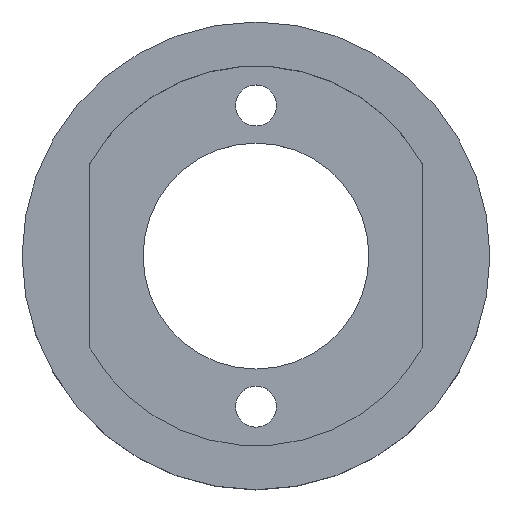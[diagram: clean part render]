
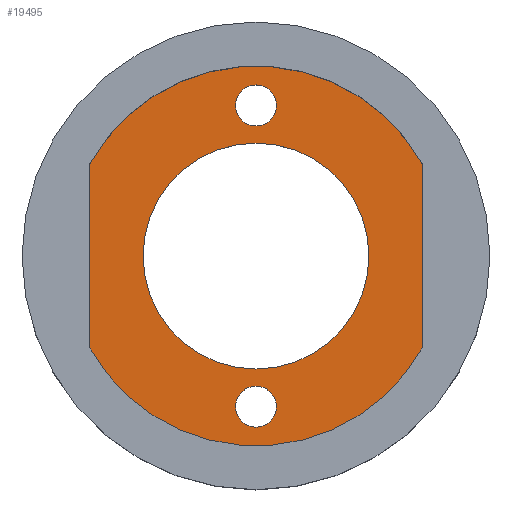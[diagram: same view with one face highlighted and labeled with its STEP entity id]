
A CAD part, top view. The second image highlights one B-rep face of the part: STEP entity #19495.
In plain terms, the highlighted planar face has unit normal (0, 0, 1).
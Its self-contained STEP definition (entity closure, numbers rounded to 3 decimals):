
#18949 = CYLINDRICAL_SURFACE('',#18950,1.36);
#18950 = AXIS2_PLACEMENT_3D('',#18951,#18952,#18953);
#18951 = CARTESIAN_POINT('',(0.,-10.,-1.));
#18952 = DIRECTION('',(0.,0.,1.));
#18953 = DIRECTION('',(1.,0.,-0.));
#18980 = CYLINDRICAL_SURFACE('',#18981,7.5);
#18981 = AXIS2_PLACEMENT_3D('',#18982,#18983,#18984);
#18982 = CARTESIAN_POINT('',(0.,0.,-1.));
#18983 = DIRECTION('',(0.,0.,1.));
#18984 = DIRECTION('',(1.,0.,-0.));
#19011 = CYLINDRICAL_SURFACE('',#19012,1.36);
#19012 = AXIS2_PLACEMENT_3D('',#19013,#19014,#19015);
#19013 = CARTESIAN_POINT('',(0.,10.,-1.));
#19014 = DIRECTION('',(0.,0.,1.));
#19015 = DIRECTION('',(1.,0.,-0.));
#19048 = CYLINDRICAL_SURFACE('',#19049,12.61);
#19049 = AXIS2_PLACEMENT_3D('',#19050,#19051,#19052);
#19050 = CARTESIAN_POINT('',(0.,0.,0.6));
#19051 = DIRECTION('',(0.,0.,1.));
#19052 = DIRECTION('',(1.,0.,-0.));
#19076 = PLANE('',#19077);
#19077 = AXIS2_PLACEMENT_3D('',#19078,#19079,#19080);
#19078 = CARTESIAN_POINT('',(-11.03,-16.,0.6));
#19079 = DIRECTION('',(1.,0.,-0.));
#19080 = DIRECTION('',(0.,0.,1.));
#19105 = CYLINDRICAL_SURFACE('',#19106,12.61);
#19106 = AXIS2_PLACEMENT_3D('',#19107,#19108,#19109);
#19107 = CARTESIAN_POINT('',(0.,0.,0.6));
#19108 = DIRECTION('',(0.,0.,1.));
#19109 = DIRECTION('',(1.,0.,-0.));
#19131 = PLANE('',#19132);
#19132 = AXIS2_PLACEMENT_3D('',#19133,#19134,#19135);
#19133 = CARTESIAN_POINT('',(11.03,-16.,0.6));
#19134 = DIRECTION('',(1.,0.,-0.));
#19135 = DIRECTION('',(0.,0.,1.));
#19146 = EDGE_CURVE('',#19147,#19147,#19149,.T.);
#19147 = VERTEX_POINT('',#19148);
#19148 = CARTESIAN_POINT('',(1.36,-10.,0.6));
#19149 = SURFACE_CURVE('',#19150,(#19155,#19162),.PCURVE_S1.);
#19150 = CIRCLE('',#19151,1.36);
#19151 = AXIS2_PLACEMENT_3D('',#19152,#19153,#19154);
#19152 = CARTESIAN_POINT('',(0.,-10.,0.6));
#19153 = DIRECTION('',(0.,0.,1.));
#19154 = DIRECTION('',(1.,0.,-0.));
#19155 = PCURVE('',#18949,#19156);
#19156 = DEFINITIONAL_REPRESENTATION('',(#19157),#19161);
#19157 = LINE('',#19158,#19159);
#19158 = CARTESIAN_POINT('',(0.,1.6));
#19159 = VECTOR('',#19160,1.);
#19160 = DIRECTION('',(1.,0.));
#19161 = ( GEOMETRIC_REPRESENTATION_CONTEXT(2) 
PARAMETRIC_REPRESENTATION_CONTEXT() REPRESENTATION_CONTEXT('2D SPACE',''
  ) );
#19162 = PCURVE('',#19163,#19168);
#19163 = PLANE('',#19164);
#19164 = AXIS2_PLACEMENT_3D('',#19165,#19166,#19167);
#19165 = CARTESIAN_POINT('',(0.,0.,0.6));
#19166 = DIRECTION('',(0.,0.,1.));
#19167 = DIRECTION('',(1.,0.,-0.));
#19168 = DEFINITIONAL_REPRESENTATION('',(#19169),#19173);
#19169 = CIRCLE('',#19170,1.36);
#19170 = AXIS2_PLACEMENT_2D('',#19171,#19172);
#19171 = CARTESIAN_POINT('',(0.,-10.));
#19172 = DIRECTION('',(1.,0.));
#19173 = ( GEOMETRIC_REPRESENTATION_CONTEXT(2) 
PARAMETRIC_REPRESENTATION_CONTEXT() REPRESENTATION_CONTEXT('2D SPACE',''
  ) );
#19201 = EDGE_CURVE('',#19202,#19202,#19204,.T.);
#19202 = VERTEX_POINT('',#19203);
#19203 = CARTESIAN_POINT('',(7.5,0.,0.6));
#19204 = SURFACE_CURVE('',#19205,(#19210,#19217),.PCURVE_S1.);
#19205 = CIRCLE('',#19206,7.5);
#19206 = AXIS2_PLACEMENT_3D('',#19207,#19208,#19209);
#19207 = CARTESIAN_POINT('',(0.,0.,0.6));
#19208 = DIRECTION('',(0.,0.,1.));
#19209 = DIRECTION('',(1.,0.,-0.));
#19210 = PCURVE('',#18980,#19211);
#19211 = DEFINITIONAL_REPRESENTATION('',(#19212),#19216);
#19212 = LINE('',#19213,#19214);
#19213 = CARTESIAN_POINT('',(0.,1.6));
#19214 = VECTOR('',#19215,1.);
#19215 = DIRECTION('',(1.,0.));
#19216 = ( GEOMETRIC_REPRESENTATION_CONTEXT(2) 
PARAMETRIC_REPRESENTATION_CONTEXT() REPRESENTATION_CONTEXT('2D SPACE',''
  ) );
#19217 = PCURVE('',#19163,#19218);
#19218 = DEFINITIONAL_REPRESENTATION('',(#19219),#19223);
#19219 = CIRCLE('',#19220,7.5);
#19220 = AXIS2_PLACEMENT_2D('',#19221,#19222);
#19221 = CARTESIAN_POINT('',(0.,0.));
#19222 = DIRECTION('',(1.,0.));
#19223 = ( GEOMETRIC_REPRESENTATION_CONTEXT(2) 
PARAMETRIC_REPRESENTATION_CONTEXT() REPRESENTATION_CONTEXT('2D SPACE',''
  ) );
#19251 = EDGE_CURVE('',#19252,#19252,#19254,.T.);
#19252 = VERTEX_POINT('',#19253);
#19253 = CARTESIAN_POINT('',(1.36,10.,0.6));
#19254 = SURFACE_CURVE('',#19255,(#19260,#19267),.PCURVE_S1.);
#19255 = CIRCLE('',#19256,1.36);
#19256 = AXIS2_PLACEMENT_3D('',#19257,#19258,#19259);
#19257 = CARTESIAN_POINT('',(0.,10.,0.6));
#19258 = DIRECTION('',(0.,0.,1.));
#19259 = DIRECTION('',(1.,0.,-0.));
#19260 = PCURVE('',#19011,#19261);
#19261 = DEFINITIONAL_REPRESENTATION('',(#19262),#19266);
#19262 = LINE('',#19263,#19264);
#19263 = CARTESIAN_POINT('',(0.,1.6));
#19264 = VECTOR('',#19265,1.);
#19265 = DIRECTION('',(1.,0.));
#19266 = ( GEOMETRIC_REPRESENTATION_CONTEXT(2) 
PARAMETRIC_REPRESENTATION_CONTEXT() REPRESENTATION_CONTEXT('2D SPACE',''
  ) );
#19267 = PCURVE('',#19163,#19268);
#19268 = DEFINITIONAL_REPRESENTATION('',(#19269),#19273);
#19269 = CIRCLE('',#19270,1.36);
#19270 = AXIS2_PLACEMENT_2D('',#19271,#19272);
#19271 = CARTESIAN_POINT('',(0.,10.));
#19272 = DIRECTION('',(1.,0.));
#19273 = ( GEOMETRIC_REPRESENTATION_CONTEXT(2) 
PARAMETRIC_REPRESENTATION_CONTEXT() REPRESENTATION_CONTEXT('2D SPACE',''
  ) );
#19301 = EDGE_CURVE('',#19302,#19304,#19306,.T.);
#19302 = VERTEX_POINT('',#19303);
#19303 = CARTESIAN_POINT('',(-11.03,-6.112,0.6));
#19304 = VERTEX_POINT('',#19305);
#19305 = CARTESIAN_POINT('',(11.03,-6.112,0.6));
#19306 = SURFACE_CURVE('',#19307,(#19312,#19319),.PCURVE_S1.);
#19307 = CIRCLE('',#19308,12.61);
#19308 = AXIS2_PLACEMENT_3D('',#19309,#19310,#19311);
#19309 = CARTESIAN_POINT('',(0.,0.,0.6));
#19310 = DIRECTION('',(0.,0.,1.));
#19311 = DIRECTION('',(1.,0.,-0.));
#19312 = PCURVE('',#19048,#19313);
#19313 = DEFINITIONAL_REPRESENTATION('',(#19314),#19318);
#19314 = LINE('',#19315,#19316);
#19315 = CARTESIAN_POINT('',(0.,0.));
#19316 = VECTOR('',#19317,1.);
#19317 = DIRECTION('',(1.,0.));
#19318 = ( GEOMETRIC_REPRESENTATION_CONTEXT(2) 
PARAMETRIC_REPRESENTATION_CONTEXT() REPRESENTATION_CONTEXT('2D SPACE',''
  ) );
#19319 = PCURVE('',#19163,#19320);
#19320 = DEFINITIONAL_REPRESENTATION('',(#19321),#19325);
#19321 = CIRCLE('',#19322,12.61);
#19322 = AXIS2_PLACEMENT_2D('',#19323,#19324);
#19323 = CARTESIAN_POINT('',(0.,0.));
#19324 = DIRECTION('',(1.,0.));
#19325 = ( GEOMETRIC_REPRESENTATION_CONTEXT(2) 
PARAMETRIC_REPRESENTATION_CONTEXT() REPRESENTATION_CONTEXT('2D SPACE',''
  ) );
#19375 = EDGE_CURVE('',#19304,#19376,#19378,.T.);
#19376 = VERTEX_POINT('',#19377);
#19377 = CARTESIAN_POINT('',(11.03,6.112,0.6));
#19378 = SURFACE_CURVE('',#19379,(#19383,#19390),.PCURVE_S1.);
#19379 = LINE('',#19380,#19381);
#19380 = CARTESIAN_POINT('',(11.03,-16.,0.6));
#19381 = VECTOR('',#19382,1.);
#19382 = DIRECTION('',(-0.,1.,0.));
#19383 = PCURVE('',#19131,#19384);
#19384 = DEFINITIONAL_REPRESENTATION('',(#19385),#19389);
#19385 = LINE('',#19386,#19387);
#19386 = CARTESIAN_POINT('',(0.,0.));
#19387 = VECTOR('',#19388,1.);
#19388 = DIRECTION('',(0.,-1.));
#19389 = ( GEOMETRIC_REPRESENTATION_CONTEXT(2) 
PARAMETRIC_REPRESENTATION_CONTEXT() REPRESENTATION_CONTEXT('2D SPACE',''
  ) );
#19390 = PCURVE('',#19163,#19391);
#19391 = DEFINITIONAL_REPRESENTATION('',(#19392),#19396);
#19392 = LINE('',#19393,#19394);
#19393 = CARTESIAN_POINT('',(11.03,-16.));
#19394 = VECTOR('',#19395,1.);
#19395 = DIRECTION('',(0.,1.));
#19396 = ( GEOMETRIC_REPRESENTATION_CONTEXT(2) 
PARAMETRIC_REPRESENTATION_CONTEXT() REPRESENTATION_CONTEXT('2D SPACE',''
  ) );
#19424 = EDGE_CURVE('',#19376,#19425,#19427,.T.);
#19425 = VERTEX_POINT('',#19426);
#19426 = CARTESIAN_POINT('',(-11.03,6.112,0.6));
#19427 = SURFACE_CURVE('',#19428,(#19433,#19440),.PCURVE_S1.);
#19428 = CIRCLE('',#19429,12.61);
#19429 = AXIS2_PLACEMENT_3D('',#19430,#19431,#19432);
#19430 = CARTESIAN_POINT('',(0.,0.,0.6));
#19431 = DIRECTION('',(0.,0.,1.));
#19432 = DIRECTION('',(1.,0.,-0.));
#19433 = PCURVE('',#19105,#19434);
#19434 = DEFINITIONAL_REPRESENTATION('',(#19435),#19439);
#19435 = LINE('',#19436,#19437);
#19436 = CARTESIAN_POINT('',(0.,0.));
#19437 = VECTOR('',#19438,1.);
#19438 = DIRECTION('',(1.,0.));
#19439 = ( GEOMETRIC_REPRESENTATION_CONTEXT(2) 
PARAMETRIC_REPRESENTATION_CONTEXT() REPRESENTATION_CONTEXT('2D SPACE',''
  ) );
#19440 = PCURVE('',#19163,#19441);
#19441 = DEFINITIONAL_REPRESENTATION('',(#19442),#19446);
#19442 = CIRCLE('',#19443,12.61);
#19443 = AXIS2_PLACEMENT_2D('',#19444,#19445);
#19444 = CARTESIAN_POINT('',(0.,0.));
#19445 = DIRECTION('',(1.,0.));
#19446 = ( GEOMETRIC_REPRESENTATION_CONTEXT(2) 
PARAMETRIC_REPRESENTATION_CONTEXT() REPRESENTATION_CONTEXT('2D SPACE',''
  ) );
#19474 = EDGE_CURVE('',#19302,#19425,#19475,.T.);
#19475 = SURFACE_CURVE('',#19476,(#19480,#19487),.PCURVE_S1.);
#19476 = LINE('',#19477,#19478);
#19477 = CARTESIAN_POINT('',(-11.03,-16.,0.6));
#19478 = VECTOR('',#19479,1.);
#19479 = DIRECTION('',(-0.,1.,0.));
#19480 = PCURVE('',#19076,#19481);
#19481 = DEFINITIONAL_REPRESENTATION('',(#19482),#19486);
#19482 = LINE('',#19483,#19484);
#19483 = CARTESIAN_POINT('',(0.,0.));
#19484 = VECTOR('',#19485,1.);
#19485 = DIRECTION('',(0.,-1.));
#19486 = ( GEOMETRIC_REPRESENTATION_CONTEXT(2) 
PARAMETRIC_REPRESENTATION_CONTEXT() REPRESENTATION_CONTEXT('2D SPACE',''
  ) );
#19487 = PCURVE('',#19163,#19488);
#19488 = DEFINITIONAL_REPRESENTATION('',(#19489),#19493);
#19489 = LINE('',#19490,#19491);
#19490 = CARTESIAN_POINT('',(-11.03,-16.));
#19491 = VECTOR('',#19492,1.);
#19492 = DIRECTION('',(0.,1.));
#19493 = ( GEOMETRIC_REPRESENTATION_CONTEXT(2) 
PARAMETRIC_REPRESENTATION_CONTEXT() REPRESENTATION_CONTEXT('2D SPACE',''
  ) );
#19495 = ADVANCED_FACE('',(#19496,#19502,#19505,#19508),#19163,.T.);
#19496 = FACE_BOUND('',#19497,.T.);
#19497 = EDGE_LOOP('',(#19498,#19499,#19500,#19501));
#19498 = ORIENTED_EDGE('',*,*,#19375,.T.);
#19499 = ORIENTED_EDGE('',*,*,#19424,.T.);
#19500 = ORIENTED_EDGE('',*,*,#19474,.F.);
#19501 = ORIENTED_EDGE('',*,*,#19301,.T.);
#19502 = FACE_BOUND('',#19503,.T.);
#19503 = EDGE_LOOP('',(#19504));
#19504 = ORIENTED_EDGE('',*,*,#19146,.F.);
#19505 = FACE_BOUND('',#19506,.T.);
#19506 = EDGE_LOOP('',(#19507));
#19507 = ORIENTED_EDGE('',*,*,#19201,.F.);
#19508 = FACE_BOUND('',#19509,.T.);
#19509 = EDGE_LOOP('',(#19510));
#19510 = ORIENTED_EDGE('',*,*,#19251,.F.);
